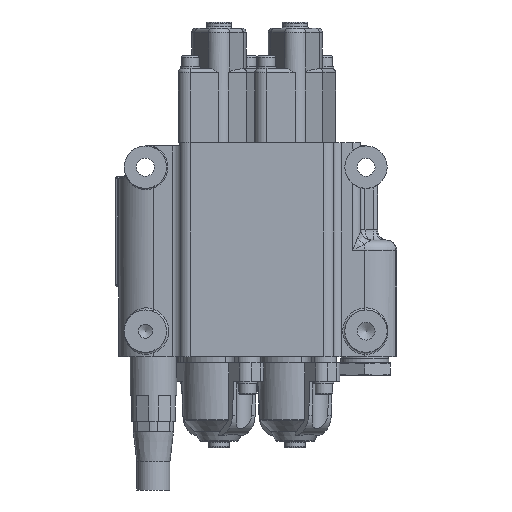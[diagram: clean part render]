
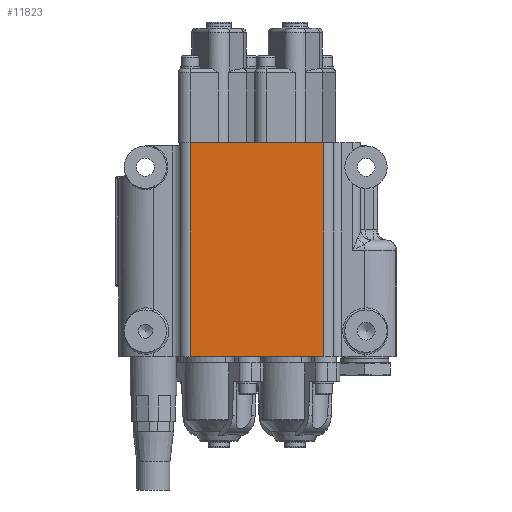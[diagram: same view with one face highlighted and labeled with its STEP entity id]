
A CAD part, front view. The second image highlights one B-rep face of the part: STEP entity #11823.
In plain terms, the highlighted planar face has unit normal (0, -1, 0).
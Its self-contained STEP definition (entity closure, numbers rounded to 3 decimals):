
#935=PLANE('',#13155);
#1459=FACE_OUTER_BOUND('',#2185,.T.);
#2185=EDGE_LOOP('',(#9200,#9201,#9202,#9203));
#2821=LINE('',#22840,#3449);
#2825=LINE('',#22858,#3453);
#2865=LINE('',#23700,#3493);
#2866=LINE('',#23701,#3494);
#3449=VECTOR('',#15361,63.156);
#3453=VECTOR('',#15381,101.092);
#3493=VECTOR('',#15615,63.156);
#3494=VECTOR('',#15616,101.092);
#5116=VERTEX_POINT('',#22837);
#5117=VERTEX_POINT('',#22839);
#5123=VERTEX_POINT('',#22856);
#5183=VERTEX_POINT('',#23699);
#6496=EDGE_CURVE('',#5117,#5116,#2821,.T.);
#6506=EDGE_CURVE('',#5116,#5123,#2825,.T.);
#6623=EDGE_CURVE('',#5123,#5183,#2865,.T.);
#6624=EDGE_CURVE('',#5117,#5183,#2866,.T.);
#9200=ORIENTED_EDGE('',*,*,#6623,.T.);
#9201=ORIENTED_EDGE('',*,*,#6624,.F.);
#9202=ORIENTED_EDGE('',*,*,#6496,.T.);
#9203=ORIENTED_EDGE('',*,*,#6506,.T.);
#11823=ADVANCED_FACE('',(#1459),#935,.T.);
#13155=AXIS2_PLACEMENT_3D('',#23698,#15613,#15614);
#15361=DIRECTION('',(-1.,0.,0.));
#15381=DIRECTION('',(0.,0.,-1.));
#15613=DIRECTION('center_axis',(0.,-1.,0.));
#15614=DIRECTION('ref_axis',(0.,0.,-1.));
#15615=DIRECTION('',(1.,0.,0.));
#15616=DIRECTION('',(0.,0.,-1.));
#22837=CARTESIAN_POINT('',(-13.578,-22.149,0.));
#22839=CARTESIAN_POINT('',(49.578,-22.149,0.));
#22840=CARTESIAN_POINT('',(49.578,-22.149,0.));
#22856=CARTESIAN_POINT('',(-13.578,-22.149,-101.092));
#22858=CARTESIAN_POINT('',(-13.578,-22.149,0.));
#23698=CARTESIAN_POINT('Origin',(-13.578,-22.149,0.));
#23699=CARTESIAN_POINT('',(49.578,-22.149,-101.092));
#23700=CARTESIAN_POINT('',(49.578,-22.149,-101.092));
#23701=CARTESIAN_POINT('',(49.578,-22.149,0.));
